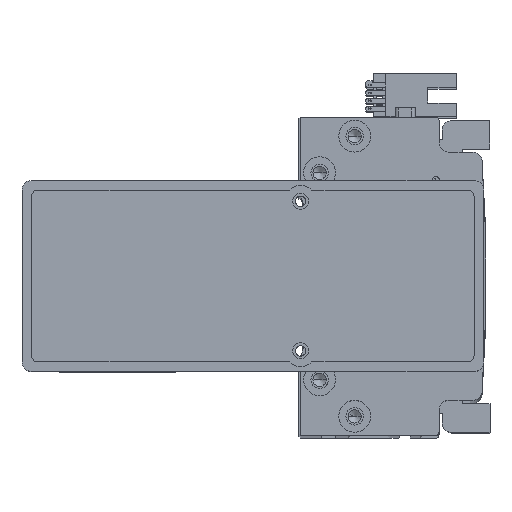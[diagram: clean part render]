
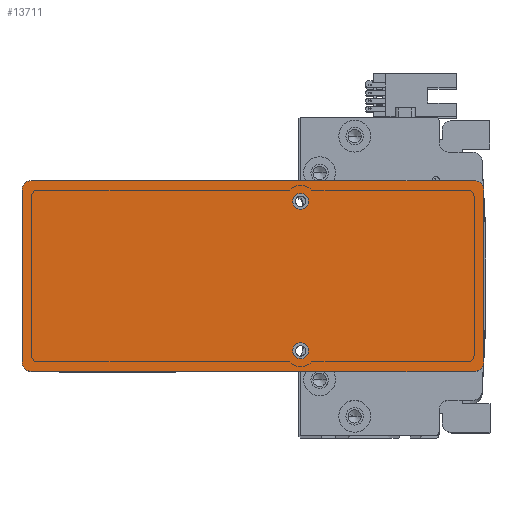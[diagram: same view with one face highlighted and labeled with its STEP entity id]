
A CAD part, top view. The second image highlights one B-rep face of the part: STEP entity #13711.
In plain terms, the highlighted planar face has unit normal (0, 0, 1) as drawn and (0, 0, -1) by its records, which use the part's own axes.
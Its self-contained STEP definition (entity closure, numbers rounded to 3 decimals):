
#487 = DIRECTION ( 'NONE',  ( 1., 0., 0. ) ) ;
#1092 = CARTESIAN_POINT ( 'NONE',  ( 69.5, 30., 0. ) ) ;
#1453 = CIRCLE ( 'NONE', #32517, 3. ) ;
#2027 = CARTESIAN_POINT ( 'NONE',  ( 69.5, -30., 0. ) ) ;
#2217 = DIRECTION ( 'NONE',  ( 1., 0., 0. ) ) ;
#2299 = DIRECTION ( 'NONE',  ( -1., 0., 0. ) ) ;
#4807 = DIRECTION ( 'NONE',  ( 0., 0., -1. ) ) ;
#6175 = EDGE_LOOP ( 'NONE', ( #35207, #48779, #25239, #37499, #21695, #51980, #34079, #34520 ) ) ;
#6722 = PLANE ( 'NONE',  #30221 ) ;
#7294 = DIRECTION ( 'NONE',  ( 0., 0., 1. ) ) ;
#7300 = VECTOR ( 'NONE', #23013, 1000. ) ;
#7384 = CARTESIAN_POINT ( 'NONE',  ( 15., -23.5, 0. ) ) ;
#9117 = CARTESIAN_POINT ( 'NONE',  ( -72.5, -27., 0. ) ) ;
#9261 = ORIENTED_EDGE ( 'NONE', *, *, #30810, .F. ) ;
#10676 = VERTEX_POINT ( 'NONE', #22122 ) ;
#10705 = AXIS2_PLACEMENT_3D ( 'NONE', #54871, #28491, #2217 ) ;
#11783 = DIRECTION ( 'NONE',  ( -1., 0., 0. ) ) ;
#13249 = EDGE_LOOP ( 'NONE', ( #38303, #48840 ) ) ;
#13332 = LINE ( 'NONE', #16231, #47001 ) ;
#13440 = CIRCLE ( 'NONE', #23738, 2.5 ) ;
#13650 = CARTESIAN_POINT ( 'NONE',  ( -69.5, -27., 0. ) ) ;
#13711 = ADVANCED_FACE ( 'NONE', ( #42226, #20230, #53947 ), #6722, .F. ) ;
#14240 = CIRCLE ( 'NONE', #42679, 3. ) ;
#15874 = CIRCLE ( 'NONE', #10705, 3. ) ;
#16231 = CARTESIAN_POINT ( 'NONE',  ( 72.5, -30., 0. ) ) ;
#16819 = AXIS2_PLACEMENT_3D ( 'NONE', #50222, #23886, #54696 ) ;
#18046 = DIRECTION ( 'NONE',  ( 1., 0., 0. ) ) ;
#18511 = CARTESIAN_POINT ( 'NONE',  ( -69.5, 27., 0. ) ) ;
#19321 = VECTOR ( 'NONE', #487, 1000. ) ;
#19699 = AXIS2_PLACEMENT_3D ( 'NONE', #54958, #28590, #2299 ) ;
#19902 = EDGE_CURVE ( 'NONE', #45152, #51018, #1453, .T. ) ;
#20230 = FACE_BOUND ( 'NONE', #38732, .T. ) ;
#20709 = LINE ( 'NONE', #30512, #19321 ) ;
#20902 = EDGE_CURVE ( 'NONE', #49956, #45250, #14240, .T. ) ;
#21457 = VERTEX_POINT ( 'NONE', #42367 ) ;
#21695 = ORIENTED_EDGE ( 'NONE', *, *, #49107, .F. ) ;
#21799 = EDGE_CURVE ( 'NONE', #24504, #35622, #53375, .T. ) ;
#22122 = CARTESIAN_POINT ( 'NONE',  ( 17.5, -23.5, 0. ) ) ;
#22130 = CARTESIAN_POINT ( 'NONE',  ( 15., 23.5, 0. ) ) ;
#22171 = CARTESIAN_POINT ( 'NONE',  ( -69.5, 30., 0. ) ) ;
#22900 = DIRECTION ( 'NONE',  ( 1., 0., 0. ) ) ;
#22922 = ORIENTED_EDGE ( 'NONE', *, *, #23822, .F. ) ;
#23013 = DIRECTION ( 'NONE',  ( -1., 0., 0. ) ) ;
#23738 = AXIS2_PLACEMENT_3D ( 'NONE', #7384, #38106, #11783 ) ;
#23822 = EDGE_CURVE ( 'NONE', #10676, #44555, #56286, .T. ) ;
#23886 = DIRECTION ( 'NONE',  ( 0., 0., -1. ) ) ;
#24504 = VERTEX_POINT ( 'NONE', #28910 ) ;
#25239 = ORIENTED_EDGE ( 'NONE', *, *, #44121, .F. ) ;
#26550 = DIRECTION ( 'NONE',  ( -1., 0., 0. ) ) ;
#27225 = AXIS2_PLACEMENT_3D ( 'NONE', #18511, #49215, #22900 ) ;
#28422 = CARTESIAN_POINT ( 'NONE',  ( 72.5, -27., 0. ) ) ;
#28491 = DIRECTION ( 'NONE',  ( 0., 0., -1. ) ) ;
#28590 = DIRECTION ( 'NONE',  ( 0., 0., -1. ) ) ;
#28910 = CARTESIAN_POINT ( 'NONE',  ( -72.5, 27., 0. ) ) ;
#30221 = AXIS2_PLACEMENT_3D ( 'NONE', #33618, #7294, #38010 ) ;
#30512 = CARTESIAN_POINT ( 'NONE',  ( 72.5, -30., 0. ) ) ;
#30810 = EDGE_CURVE ( 'NONE', #44555, #10676, #13440, .T. ) ;
#31228 = CARTESIAN_POINT ( 'NONE',  ( 69.5, -27., 0. ) ) ;
#31655 = VECTOR ( 'NONE', #49619, 1000. ) ;
#32517 = AXIS2_PLACEMENT_3D ( 'NONE', #13650, #44341, #18046 ) ;
#32529 = VERTEX_POINT ( 'NONE', #35788 ) ;
#33618 = CARTESIAN_POINT ( 'NONE',  ( 0., 0., 0. ) ) ;
#33701 = VERTEX_POINT ( 'NONE', #1092 ) ;
#33862 = VERTEX_POINT ( 'NONE', #54887 ) ;
#34079 = ORIENTED_EDGE ( 'NONE', *, *, #48077, .F. ) ;
#34520 = ORIENTED_EDGE ( 'NONE', *, *, #38442, .T. ) ;
#35207 = ORIENTED_EDGE ( 'NONE', *, *, #50771, .F. ) ;
#35569 = DIRECTION ( 'NONE',  ( 1., 0., 0. ) ) ;
#35622 = VERTEX_POINT ( 'NONE', #22171 ) ;
#35788 = CARTESIAN_POINT ( 'NONE',  ( 12.5, 23.5, 0. ) ) ;
#36891 = EDGE_CURVE ( 'NONE', #32529, #21457, #50614, .T. ) ;
#37499 = ORIENTED_EDGE ( 'NONE', *, *, #19902, .T. ) ;
#38010 = DIRECTION ( 'NONE',  ( 1., 0., 0. ) ) ;
#38106 = DIRECTION ( 'NONE',  ( 0., 0., -1. ) ) ;
#38303 = ORIENTED_EDGE ( 'NONE', *, *, #36891, .F. ) ;
#38442 = EDGE_CURVE ( 'NONE', #33701, #33862, #15874, .T. ) ;
#38732 = EDGE_LOOP ( 'NONE', ( #9261, #22922 ) ) ;
#40809 = CARTESIAN_POINT ( 'NONE',  ( -72.5, -30., 0. ) ) ;
#42226 = FACE_BOUND ( 'NONE', #13249, .T. ) ;
#42367 = CARTESIAN_POINT ( 'NONE',  ( 17.5, 23.5, 0. ) ) ;
#42679 = AXIS2_PLACEMENT_3D ( 'NONE', #31228, #4807, #35569 ) ;
#43292 = LINE ( 'NONE', #40809, #31655 ) ;
#44121 = EDGE_CURVE ( 'NONE', #45152, #45250, #20709, .T. ) ;
#44341 = DIRECTION ( 'NONE',  ( 0., 0., -1. ) ) ;
#44555 = VERTEX_POINT ( 'NONE', #49520 ) ;
#45152 = VERTEX_POINT ( 'NONE', #49837 ) ;
#45250 = VERTEX_POINT ( 'NONE', #2027 ) ;
#46155 = AXIS2_PLACEMENT_3D ( 'NONE', #22130, #52913, #26550 ) ;
#46650 = CIRCLE ( 'NONE', #46155, 2.5 ) ;
#47001 = VECTOR ( 'NONE', #56030, 1000. ) ;
#47327 = EDGE_CURVE ( 'NONE', #21457, #32529, #46650, .T. ) ;
#48077 = EDGE_CURVE ( 'NONE', #33701, #35622, #54103, .T. ) ;
#48779 = ORIENTED_EDGE ( 'NONE', *, *, #20902, .T. ) ;
#48840 = ORIENTED_EDGE ( 'NONE', *, *, #47327, .F. ) ;
#49107 = EDGE_CURVE ( 'NONE', #24504, #51018, #43292, .T. ) ;
#49215 = DIRECTION ( 'NONE',  ( 0., 0., -1. ) ) ;
#49334 = CARTESIAN_POINT ( 'NONE',  ( 72.5, 30., 0. ) ) ;
#49520 = CARTESIAN_POINT ( 'NONE',  ( 12.5, -23.5, 0. ) ) ;
#49619 = DIRECTION ( 'NONE',  ( 0., -1., 0. ) ) ;
#49837 = CARTESIAN_POINT ( 'NONE',  ( -69.5, -30., 0. ) ) ;
#49956 = VERTEX_POINT ( 'NONE', #28422 ) ;
#50222 = CARTESIAN_POINT ( 'NONE',  ( 15., 23.5, 0. ) ) ;
#50614 = CIRCLE ( 'NONE', #16819, 2.5 ) ;
#50771 = EDGE_CURVE ( 'NONE', #49956, #33862, #13332, .T. ) ;
#51018 = VERTEX_POINT ( 'NONE', #9117 ) ;
#51980 = ORIENTED_EDGE ( 'NONE', *, *, #21799, .T. ) ;
#52913 = DIRECTION ( 'NONE',  ( 0., 0., -1. ) ) ;
#53375 = CIRCLE ( 'NONE', #27225, 3. ) ;
#53947 = FACE_OUTER_BOUND ( 'NONE', #6175, .T. ) ;
#54103 = LINE ( 'NONE', #49334, #7300 ) ;
#54696 = DIRECTION ( 'NONE',  ( -1., 0., 0. ) ) ;
#54871 = CARTESIAN_POINT ( 'NONE',  ( 69.5, 27., 0. ) ) ;
#54887 = CARTESIAN_POINT ( 'NONE',  ( 72.5, 27., 0. ) ) ;
#54958 = CARTESIAN_POINT ( 'NONE',  ( 15., -23.5, 0. ) ) ;
#56030 = DIRECTION ( 'NONE',  ( 0., 1., 0. ) ) ;
#56286 = CIRCLE ( 'NONE', #19699, 2.5 ) ;
